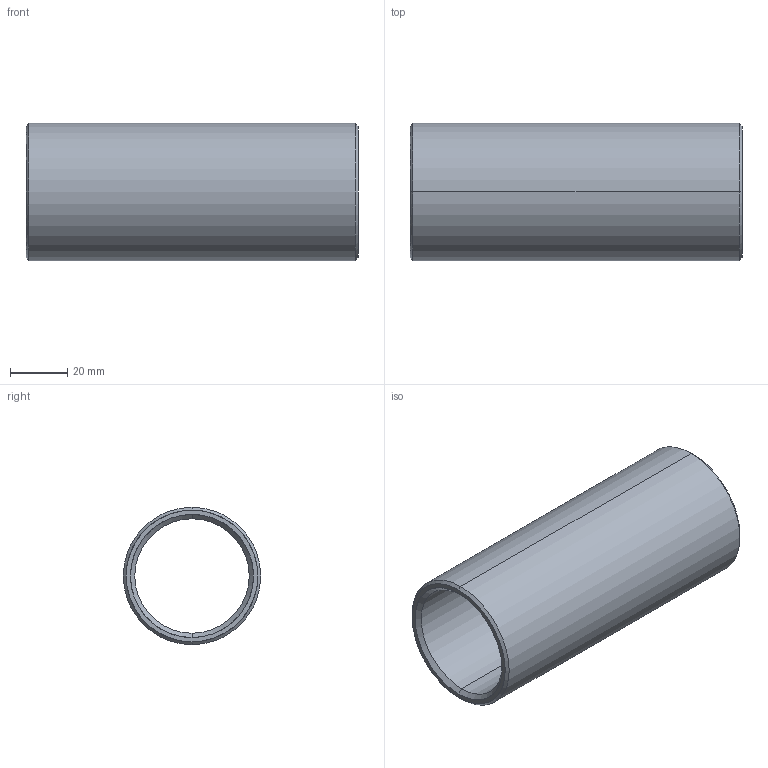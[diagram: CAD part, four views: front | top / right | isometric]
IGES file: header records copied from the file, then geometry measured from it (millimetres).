
Start section: START RECORD GO HERE.
Global section: file name: 352-40X116.igs; native system: DASSAULT SYSTEMES CATIA V5 R20 - www.3ds.com; preprocessor: CATIA Version 5 Release 20 ; author: Utente; organization: NB04-ASUS; date: 20210415.081609; units: millimetre
Bounding box: 116 x 48 x 48 mm (x, y, z)
Surface area: 32835 mm2 (no closed solid volume)
Topology: 0 solids, 0 shells, 14 faces, 88 edges, 88 vertices
Faces by surface type: revolution 12, plane 2
